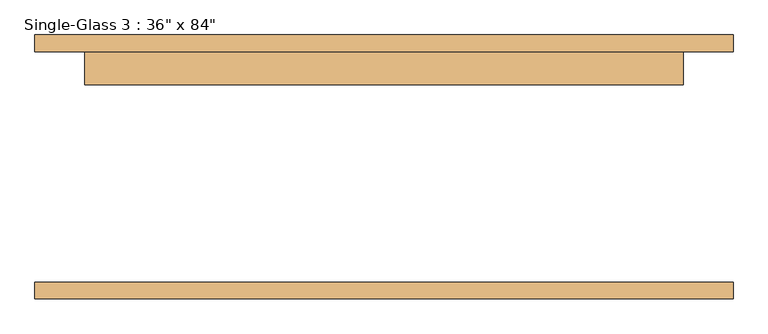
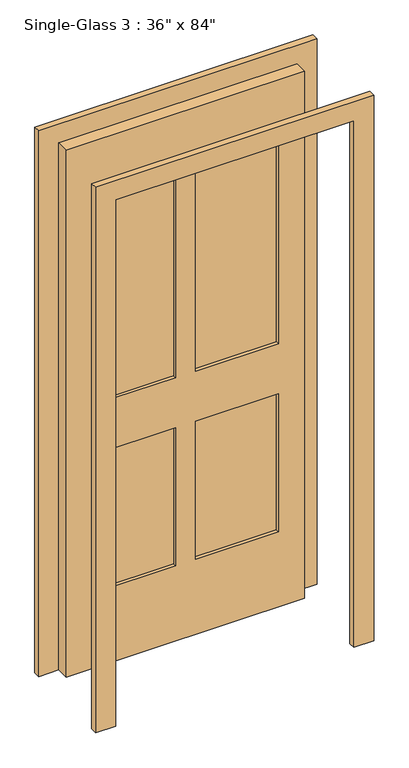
"""IFC4 building model written with IfcOpenShell, lengths in millimetres: door geometry."""

from ifc_helpers import new_model, si_unit, frame, origin, place, context, project, spatial, polyline, outline, extrude, source, transform, mapped, element, save


def door_e057ad39(model_context):
    return source(origin(), model_context, "Body", "SweptSolid", [
        extrude(outline(polyline([(2209.8, -533.4), (0.0, -533.4), (0.0, -457.3240165), (2134.9906173, -457.3240165), (2134.9906173, 457.0759835), (0.0, 457.0759835), (0.0, 533.4), (2209.8, 533.4), (2209.8, -533.4)])), frame((0.0, 176.2125, 0.0), z_axis=(0.0, 1.0, 0.0), x_axis=(0.0, 0.0, 1.0)), (0.0, 0.0, 1.0), 25.4),
        extrude(outline(polyline([(2209.8, 533.4), (2209.8, -533.4), (1.3906173, -533.4), (1.3906173, -457.3240165), (2133.6, -457.3240165), (2133.6, 457.2), (0.0, 457.2), (0.0, 533.4), (2209.8, 533.4)])), frame((0.0, -201.6125, 0.0), z_axis=(0.0, 1.0, 0.0), x_axis=(0.0, 0.0, 1.0)), (0.0, 0.0, 1.0), 25.4),
        extrude(outline(polyline([(-37.9166629, 138.1125), (-355.6, 138.1125), (-355.6, 163.5125), (-37.9166629, 163.5125), (-37.9166629, 138.1125)])), frame((0.0, 0.0, 1066.8), z_axis=(0.0, 0.0, 1.0), x_axis=(1.0, 0.0, 0.0)), (0.0, 0.0, 1.0), 889.2046757),
        extrude(outline(polyline([(355.6, 138.1125), (37.4271634, 138.1125), (37.4271634, 163.5125), (355.6, 163.5125), (355.6, 138.1125)])), frame((0.0, 0.0, 1066.8), z_axis=(0.0, 0.0, 1.0), x_axis=(1.0, 0.0, 0.0)), (0.0, 0.0, 1.0), 889.2046757),
        extrude(outline(polyline([(-37.9166629, 138.1125), (-355.6, 138.1125), (-355.6, 163.5125), (-37.9166629, 163.5125), (-37.9166629, 138.1125)])), frame((0.0, 0.0, 305.0046757), z_axis=(0.0, 0.0, 1.0), x_axis=(1.0, 0.0, 0.0)), (0.0, 0.0, 1.0), 558.8),
        extrude(outline(polyline([(355.6, 138.1125), (37.4271634, 138.1125), (37.4271634, 163.5125), (355.6, 163.5125), (355.6, 138.1125)])), frame((0.0, 0.0, 305.0046757), z_axis=(0.0, 0.0, 1.0), x_axis=(1.0, 0.0, 0.0)), (0.0, 0.0, 1.0), 558.5953243),
        extrude(outline(polyline([(2134.9906173, 457.0759835), (2134.9906173, -457.3240165), (1.3906173, -457.3240165), (1.3906173, 457.0759835), (2134.9906173, 457.0759835)]), holes=[polyline([(1957.395293, -38.2240165), (1068.1906173, -38.2240165), (1068.1906173, -355.0511799), (1957.395293, -355.0511799), (1957.395293, -38.2240165)]), polyline([(1957.395293, 356.1488201), (1068.1906173, 356.1488201), (1068.1906173, 37.9759835), (1957.395293, 37.9759835), (1957.395293, 356.1488201)]), polyline([(865.195293, -38.2240165), (306.395293, -38.2240165), (306.395293, -355.0511799), (865.195293, -355.0511799), (865.195293, -38.2240165)]), polyline([(864.9906173, 356.1488201), (306.395293, 356.1488201), (306.395293, 37.9759835), (864.9906173, 37.9759835), (864.9906173, 356.1488201)])]), frame((0.0, 125.4125, 0.0), z_axis=(0.0, 1.0, 0.0), x_axis=(0.0, 0.0, 1.0)), (0.0, 0.0, 1.0), 50.8),
    ])


if __name__ == "__main__":
    model = new_model("IFC4")
    model_context = context("Model", 3, world=origin())
    ifc_project = project(units=[si_unit("LENGTHUNIT", "METRE", prefix="MILLI")], contexts=[model_context])
    site = spatial("IfcSite", under=ifc_project)
    building = spatial("IfcBuilding", under=site)
    placement = place(None, origin())
    door_shape = door_e057ad39(model_context)
    element("IfcDoor", 1, ObjectType="Single-Glass 3 : 36\" x 84\"", at=placement, inside=building, context=model_context, shape_type="MappedRepresentation", body=[
        mapped(door_shape, transform((0.0, 0.0, 0.0), x_axis=(1.0, 0.0, 0.0), y_axis=(0.0, 1.0, 0.0), z_axis=(0.0, 0.0, 1.0))),
    ])
    save(model, "model.ifc")
